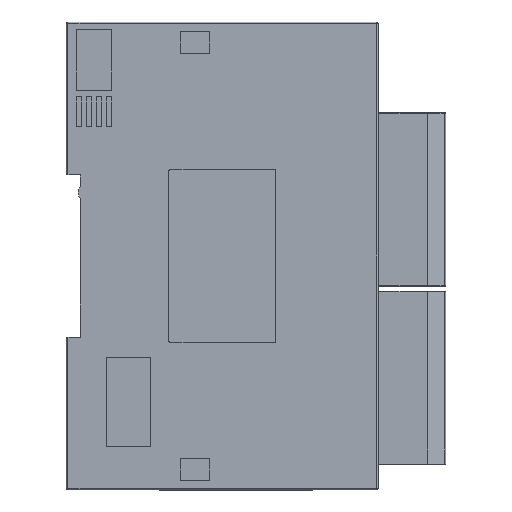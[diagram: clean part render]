
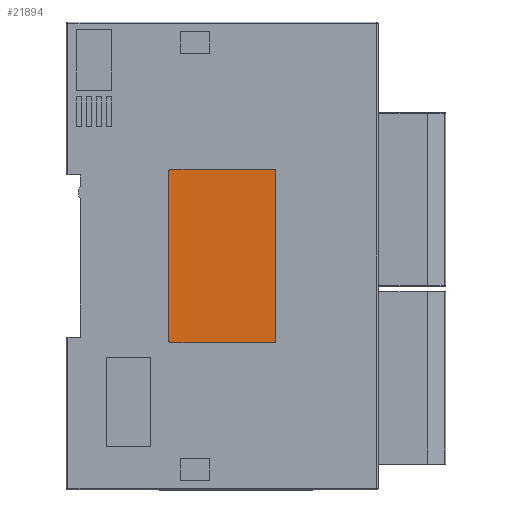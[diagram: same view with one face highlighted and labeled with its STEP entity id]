
A CAD part, left-side view. The second image highlights one B-rep face of the part: STEP entity #21894.
In plain terms, the highlighted planar face has unit normal (-1, 0, 0).
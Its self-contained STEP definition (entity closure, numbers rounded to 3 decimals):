
#21894=ADVANCED_FACE('',(#80934),#80936,.T.);
#80934=FACE_BOUND('',#80935,.T.);
#80935=EDGE_LOOP('',(#95762,#95763,#95764,#95765,#95766,#95767,#95768,#95769));
#80936=PLANE('',#80937);
#80937=AXIS2_PLACEMENT_3D('',#80938,#80939,#80940);
#80938=CARTESIAN_POINT('',(71.887,-71.468,-77.912));
#80939=DIRECTION('',(-1.,0.,0.));
#80940=DIRECTION('',(0.,0.,1.));
#95762=ORIENTED_EDGE('',*,*,#106500,.T.);
#95763=ORIENTED_EDGE('',*,*,#106501,.T.);
#95764=ORIENTED_EDGE('',*,*,#106502,.T.);
#95765=ORIENTED_EDGE('',*,*,#106503,.T.);
#95766=ORIENTED_EDGE('',*,*,#106504,.T.);
#95767=ORIENTED_EDGE('',*,*,#106505,.T.);
#95768=ORIENTED_EDGE('',*,*,#106506,.T.);
#95769=ORIENTED_EDGE('',*,*,#106507,.T.);
#106500=EDGE_CURVE('',#120433,#120434,#120435,.T.);
#106501=EDGE_CURVE('',#120434,#120436,#120437,.T.);
#106502=EDGE_CURVE('',#120436,#120438,#120439,.T.);
#106503=EDGE_CURVE('',#120438,#120440,#120441,.T.);
#106504=EDGE_CURVE('',#120440,#120442,#120443,.T.);
#106505=EDGE_CURVE('',#120442,#120444,#120445,.T.);
#106506=EDGE_CURVE('',#120444,#120446,#120447,.T.);
#106507=EDGE_CURVE('',#120446,#120433,#120448,.T.);
#120433=VERTEX_POINT('',#173890);
#120434=VERTEX_POINT('',#173891);
#120435=CIRCLE('',#173892,0.5);
#120436=VERTEX_POINT('',#173896);
#120437=LINE('',#173897,#173898);
#120438=VERTEX_POINT('',#173900);
#120439=CIRCLE('',#173901,0.5);
#120440=VERTEX_POINT('',#173905);
#120441=LINE('',#173906,#173907);
#120442=VERTEX_POINT('',#173909);
#120443=CIRCLE('',#173910,0.5);
#120444=VERTEX_POINT('',#173914);
#120445=LINE('',#173915,#173916);
#120446=VERTEX_POINT('',#173918);
#120447=CIRCLE('',#173919,0.5);
#120448=LINE('',#173923,#173924);
#173890=CARTESIAN_POINT('',(71.887,-97.88,-35.5));
#173891=CARTESIAN_POINT('',(71.887,-97.38,-35.));
#173892=AXIS2_PLACEMENT_3D('',#173893,#173894,#173895);
#173893=CARTESIAN_POINT('',(71.887,-97.38,-35.5));
#173894=DIRECTION('',(-1.,0.,0.));
#173895=DIRECTION('',(0.,-1.,0.));
#173896=CARTESIAN_POINT('',(71.887,-74.38,-35.));
#173897=CARTESIAN_POINT('',(71.887,-97.38,-35.));
#173898=VECTOR('',#173899,1.);
#173899=DIRECTION('',(0.,1.,0.));
#173900=CARTESIAN_POINT('',(71.887,-73.88,-35.5));
#173901=AXIS2_PLACEMENT_3D('',#173902,#173903,#173904);
#173902=CARTESIAN_POINT('',(71.887,-74.38,-35.5));
#173903=DIRECTION('',(-1.,0.,0.));
#173904=DIRECTION('',(0.,0.,1.));
#173905=CARTESIAN_POINT('',(71.887,-73.88,-73.5));
#173906=CARTESIAN_POINT('',(71.887,-73.88,-35.5));
#173907=VECTOR('',#173908,1.);
#173908=DIRECTION('',(0.,0.,-1.));
#173909=CARTESIAN_POINT('',(71.887,-74.38,-74.));
#173910=AXIS2_PLACEMENT_3D('',#173911,#173912,#173913);
#173911=CARTESIAN_POINT('',(71.887,-74.38,-73.5));
#173912=DIRECTION('',(-1.,0.,0.));
#173913=DIRECTION('',(0.,1.,0.));
#173914=CARTESIAN_POINT('',(71.887,-97.38,-74.));
#173915=CARTESIAN_POINT('',(71.887,-74.38,-74.));
#173916=VECTOR('',#173917,1.);
#173917=DIRECTION('',(0.,-1.,0.));
#173918=CARTESIAN_POINT('',(71.887,-97.88,-73.5));
#173919=AXIS2_PLACEMENT_3D('',#173920,#173921,#173922);
#173920=CARTESIAN_POINT('',(71.887,-97.38,-73.5));
#173921=DIRECTION('',(-1.,0.,0.));
#173922=DIRECTION('',(0.,0.,-1.));
#173923=CARTESIAN_POINT('',(71.887,-97.88,-73.5));
#173924=VECTOR('',#173925,1.);
#173925=DIRECTION('',(0.,0.,1.));
